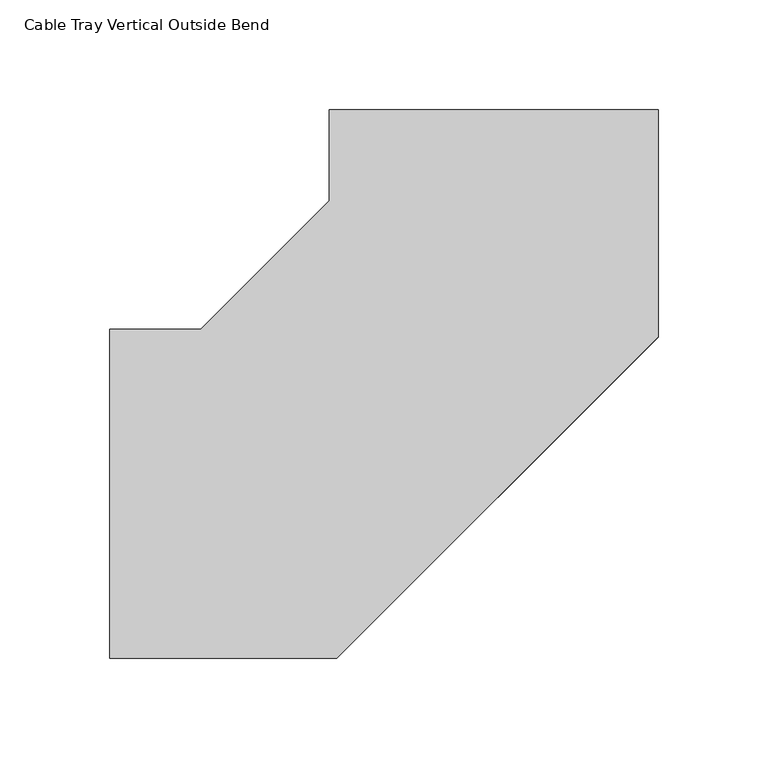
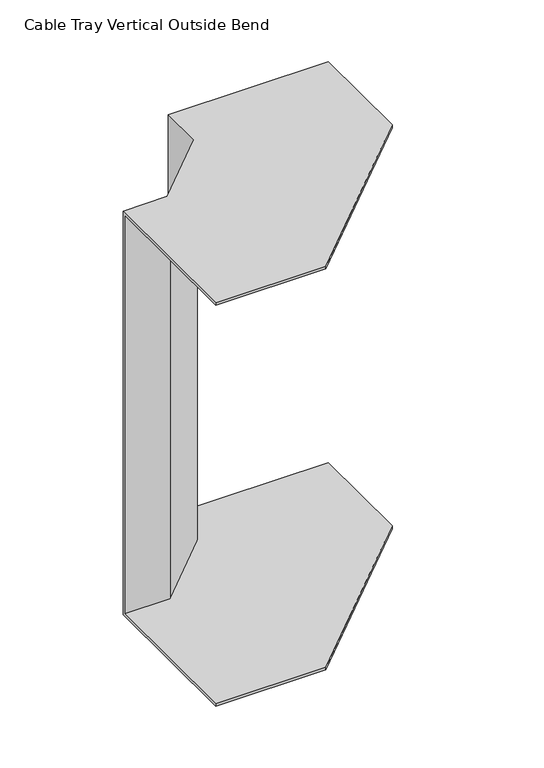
"""IFC4 building model written with IfcOpenShell, lengths in millimetres: cable carrier fitting geometry, Cable Tray Vertical Outside Bend : ELEC_ELV_TKG_N2402."""

from ifc_helpers import new_model, si_unit, origin, place, context, project, spatial, faceted_brep, source, transform, mapped, element, save


def cable_tray_vertical_outside_bend_d7308f68(model_context):
    return source(origin(), model_context, "Body", "Brep", [
        faceted_brep([(-174.9951344, -75.0, 200.0), (-174.9951344, 75.0, 200.0), (-174.9951344, 75.0, -200.0), (-174.9951344, -75.0, -200.0), (-174.9951344, -75.0, -197.46), (-174.9951344, 72.46, -197.46), (-174.9951344, 72.46, 197.46), (-174.9951344, -75.0, 197.46), (75.0048655, 174.993049, 200.0), (75.0048655, 174.993049, 197.46), (-72.4551344, 174.997149, 197.46), (-72.4551344, 174.997149, -197.46), (75.0048655, 174.993049, -197.46), (75.0048655, 174.993049, -200.0), (-74.9951344, 174.9972196, -200.0), (-74.9951344, 174.9972196, 200.0), (-71.4437797, -75.0, 200.0), (75.0019864, 71.4416943, 200.0), (-74.9962861, 133.5766777, 200.0), (-133.5745925, 75.0, 200.0), (-133.5745925, 75.0, -200.0), (-74.9962861, 133.5766777, -200.0), (75.0019864, 71.4416943, -200.0), (-71.4437797, -75.0, -200.0), (-71.4437797, -75.0, -197.46), (75.0019864, 71.4416943, -197.46), (-72.4563153, 132.5245254, -197.46), (-132.5225107, 72.46, -197.46), (-132.5225107, 72.46, 197.46), (-72.4563153, 132.5245254, 197.46), (75.0019864, 71.4416943, 197.46), (-71.4437797, -75.0, 197.46)], [[[0, 1, 2, 3, 4, 5, 6, 7]], [[8, 9, 10, 11, 12, 13, 14, 15]], [[1, 0, 16, 17, 8, 15, 18, 19]], [[2, 1, 19, 20]], [[3, 2, 20, 21, 14, 13, 22, 23]], [[4, 3, 23, 24]], [[5, 4, 24, 25, 12, 11, 26, 27]], [[6, 5, 27, 28]], [[7, 6, 28, 29, 10, 9, 30, 31]], [[0, 7, 31, 16]], [[20, 19, 18, 21]], [[24, 23, 22, 25]], [[28, 27, 26, 29]], [[16, 31, 30, 17]], [[21, 18, 15, 14]], [[25, 22, 13, 12]], [[29, 26, 11, 10]], [[17, 30, 9, 8]]]),
    ])


if __name__ == "__main__":
    model = new_model("IFC4")
    model_context = context("Model", 3, world=origin())
    ifc_project = project(units=[si_unit("LENGTHUNIT", "METRE", prefix="MILLI")], contexts=[model_context])
    site = spatial("IfcSite", under=ifc_project)
    building = spatial("IfcBuilding", under=site)
    placement = place(None, origin())
    cable_tray_vertical_outside_bend_shape = cable_tray_vertical_outside_bend_d7308f68(model_context)
    element("IfcCableCarrierFitting", 1, ObjectType="Cable Tray Vertical Outside Bend : ELEC_ELV_TKG_N2402", at=placement, inside=building, context=model_context, shape_type="MappedRepresentation", body=[
        mapped(cable_tray_vertical_outside_bend_shape, transform((0.0, 0.0, 0.0), x_axis=(1.0, 0.0, 0.0), y_axis=(0.0, 1.0, 0.0), z_axis=(0.0, 0.0, 1.0))),
    ])
    save(model, "model.ifc")
